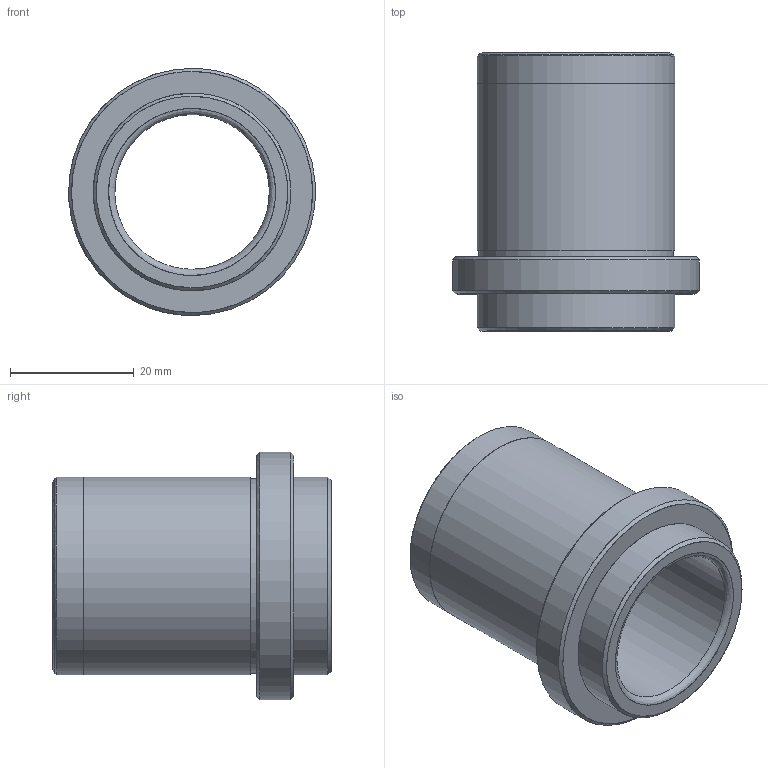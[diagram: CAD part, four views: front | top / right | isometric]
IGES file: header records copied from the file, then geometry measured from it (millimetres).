
Start section: Missler Software BP 521, 31674 Labege Cedex, France Tel   : +33 (0)5 61 00 03 00 Fax   : +33 (0)5 61 00 03 03 Email : sup.topsolid@topsolid.com
Global section: file name: C:\Documents and Settings\EXPER\Desktop\Cuma\24 03 2009\D28\D28_19X33.igs; native system: TopSolid v605250 Missler Software; preprocessor: IGES preprocessor v100000; date: 030102.054603; units: millimetre
Bounding box: 39.94 x 45 x 40 mm (x, y, z)
Surface area: 9599.6 mm2 (no closed solid volume)
Topology: 0 solids, 0 shells, 19 faces, 429 edges, 418 vertices
Faces by surface type: bspline 19
